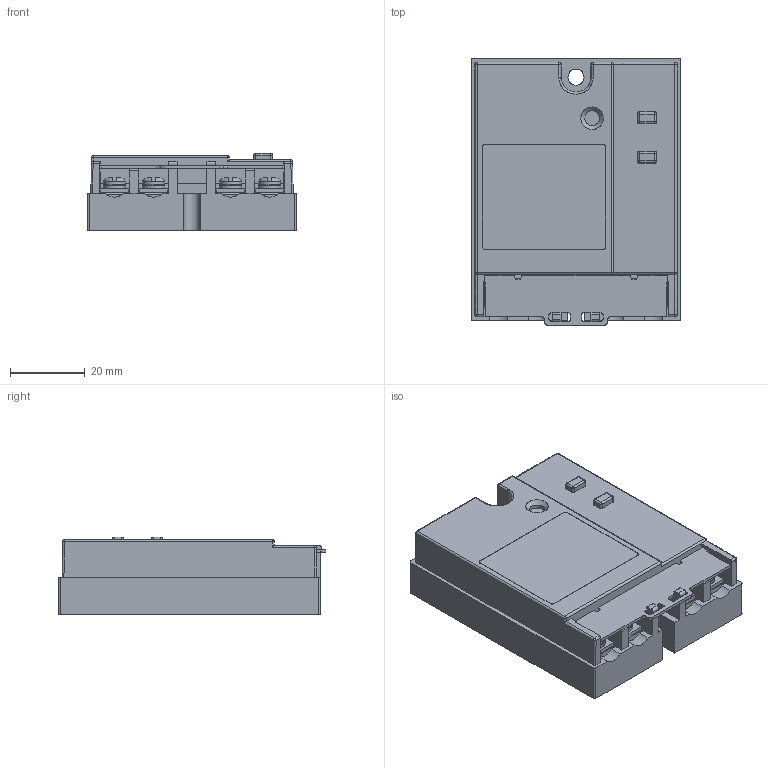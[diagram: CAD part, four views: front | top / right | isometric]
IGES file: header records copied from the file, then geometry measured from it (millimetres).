
Global section: file name: C:\config\09_1_kd-l2115r_141029.igs; native system: NX V8.0; preprocessor: SIEMENS PLM Software NX 8.0; date: 20141029.095330; units: millimetre
Bounding box: 56 x 71.4 x 20.7 mm (x, y, z)
Surface area: 15919.6 mm2 (no closed solid volume)
Topology: 0 solids, 0 shells, 388 faces, 2809 edges, 2774 vertices
Faces by surface type: bspline 388
